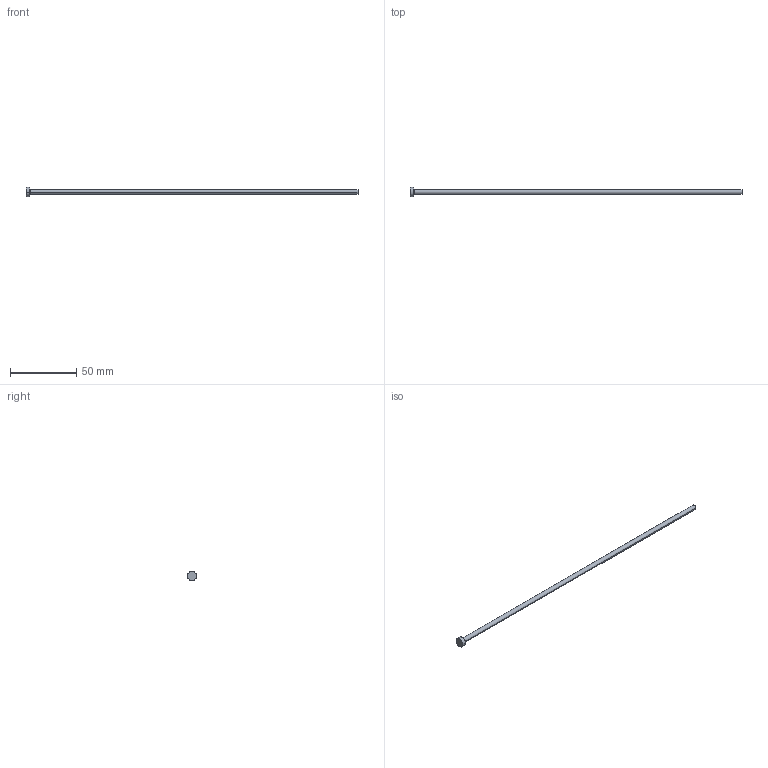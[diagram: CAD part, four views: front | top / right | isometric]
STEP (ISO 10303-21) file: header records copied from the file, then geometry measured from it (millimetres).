
FILE_DESCRIPTION (( 'STEP AP214' ), '1' );
FILE_NAME ('A-3,7x200.STEP', '2020-05-28T17:35:43', ( 'August' ), ( '' ), 'SwSTEP 2.0', 'SolidWorks 2018', '' );
FILE_SCHEMA (( 'AUTOMOTIVE_DESIGN' ));
Length unit declared in the file: millimetre
Products named in the file (1): A-3,7x200
Bounding box: 250 x 7 x 7 mm (x, y, z)
Volume: 2771.5 mm3; surface area: 3012.6 mm2
Topology: 1 solids, 1 shells, 9 faces, 16 edges, 10 vertices
Faces by surface type: cylinder 4, plane 3, torus 2
Entity records: 260 total; most frequent: DIRECTION 48, CARTESIAN_POINT 36, ORIENTED_EDGE 32, AXIS2_PLACEMENT_3D 22, EDGE_CURVE 16, CIRCLE 12, EDGE_LOOP 10, VERTEX_POINT 10
